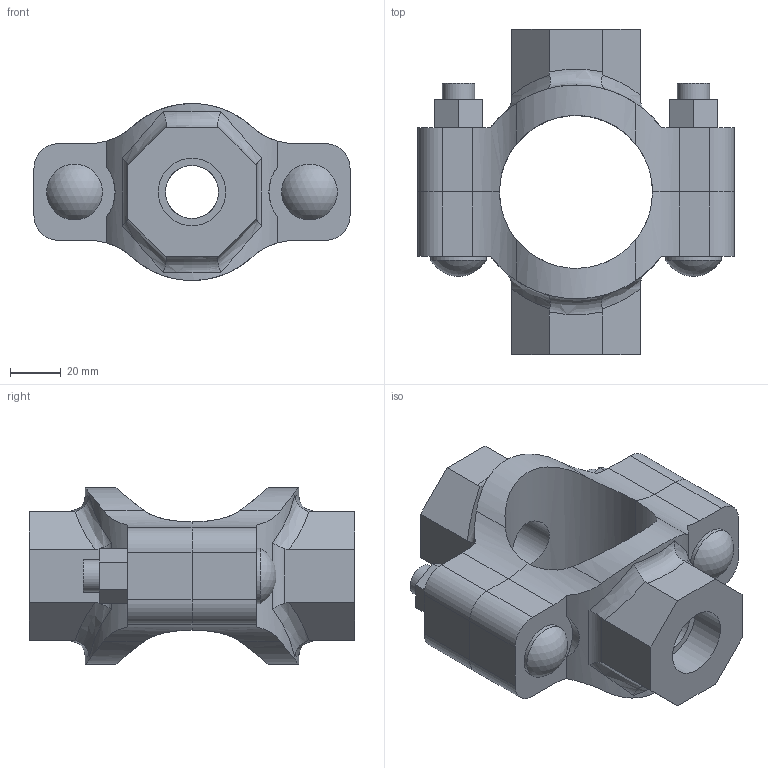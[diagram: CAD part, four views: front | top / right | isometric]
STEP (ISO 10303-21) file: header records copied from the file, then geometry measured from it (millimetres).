
FILE_DESCRIPTION(/* description */ ('VIC MECH-T BRANCH OUTLET CROSS STYLE 920N (THD)','CAx-IF Rec.Pracs.---Representation and Presentation of Product Manufacturing Information (PMI)---4.0---2014-10-13'),/* implementation_level */ '2;1');
FILE_NAME(/* name */ 'C:\Users\Vjadhav\AppData\Roaming\Autodesk\ApplicationPlugins\Back Up\Victaulic_IPS_Mechanical-Cross Outlet_Style 920N (FPT)\Victaulic_IPS_Mechanical-Cross Outlet_02.0x0.75x0.75 (50x20x20).stp',/* time_stamp */ '2020-08-06T18:55:55+05:00',/* author */ ('Vjadhav'),/* organization */ ('Victaulic'),/* preprocessor_version */ 'ST-DEVELOPER v17.2',/* originating_system */ 'Autodesk Inventor 2019',/* authorisation */ '');
FILE_SCHEMA (('AP242_MANAGED_MODEL_BASED_3D_ENGINEERING_MIM_LF { 1 0 10303 442 1 1 4 }'));
Length unit declared in the file: inch
Products named in the file (3): 920NT-02.0x0.75x0.75; 920NT-02.0x0.75; 920NT-02.0x0.75_1
Assembly tree (2 placements, depth 2):
  920NT-02.0x0.75x0.75
    920NT-02.0x0.75
    920NT-02.0x0.75_1
Bounding box: 124.71 x 128.52 x 69.83 mm (x, y, z)
Volume: 302466.2 mm3; surface area: 66411 mm2
Topology: 2 solids, 2 shells, 132 faces, 350 edges, 236 vertices
Faces by surface type: plane 68, cylinder 50, bspline 8, torus 4, sphere 2
Full cylindrical faces by diameter (mm): 12.7 x4, 20.93 x2, 21.982 x2, 26.67 x2
Entity records: 5030 total; most frequent: CARTESIAN_POINT 1517, ORIENTED_EDGE 700, DIRECTION 648, EDGE_CURVE 350, VERTEX_POINT 236, AXIS2_PLACEMENT_3D 231, LINE 186, VECTOR 186
